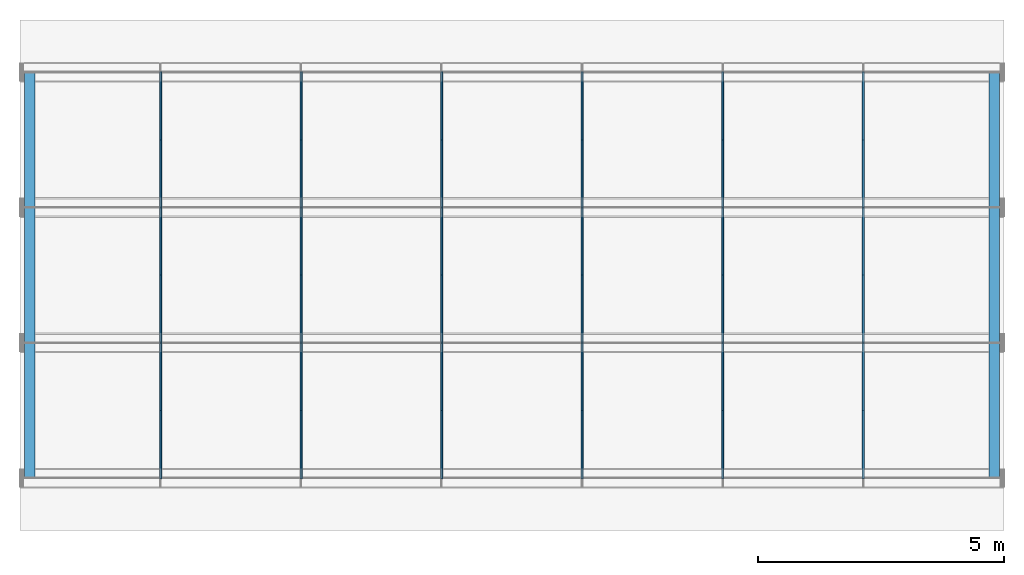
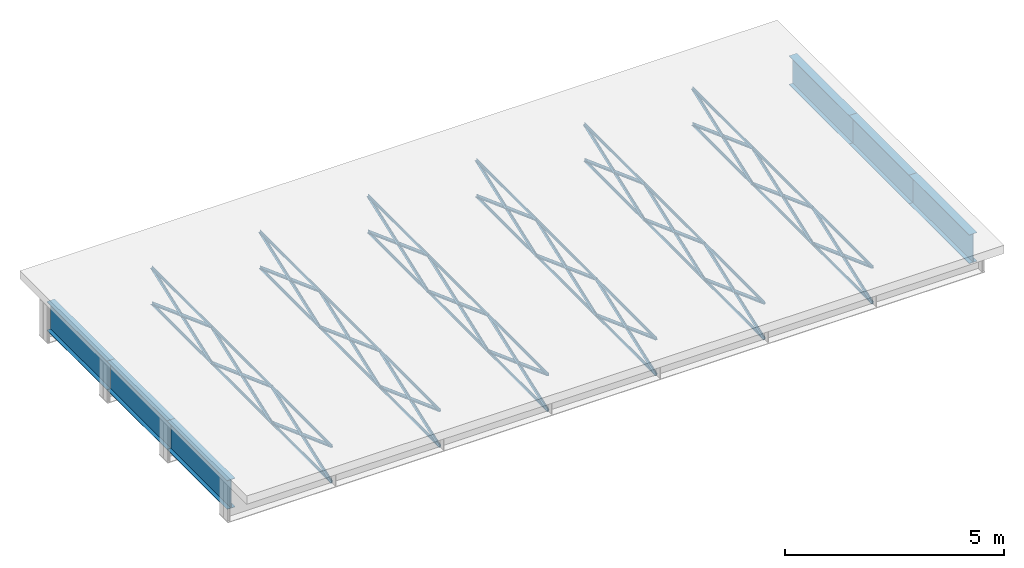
# One storey, part 1 of 12: 78 members.
"""IFC4 building model written with IfcOpenShell, lengths in metres."""

from ifc_helpers import new_model, si_unit, frame, origin, origin_with_axes, origin_2d_with_axis, place, context, subcontext, project, spatial, i_section, l_section, extrude, element, save


model = new_model("IFC4")

# Units and contexts
model_context = context("Model", 3, precision=1e-05, world=origin())
body_context = subcontext(model_context, "Body", "Model", "MODEL_VIEW")
ifc_project = project(units=[si_unit("LENGTHUNIT", "METRE"), si_unit("AREAUNIT", "SQUARE_METRE"), si_unit("VOLUMEUNIT", "CUBIC_METRE"), si_unit("PLANEANGLEUNIT", "RADIAN")], contexts=[model_context])

# Site, building, storey
site_placement = place(None, origin_with_axes())
site = spatial("IfcSite", under=ifc_project, at=site_placement, Name="Default Site")
building_placement = place(site_placement, origin_with_axes())
building = spatial("IfcBuilding", under=site, at=building_placement, Name="Bridge Structure")
storey_placement = place(building_placement, origin_with_axes())
storey = spatial("IfcBuildingStorey", under=building, at=storey_placement, Name="Superstructure")

# Members
for number, where, z_axis, x_axis, name in (
    (1, (0.2, -4.125, 0.101), (0.0, 1.0, 0.0), (-1.0, 0.0, 0.0), "End Diaphragm"),
    (2, (0.2, -1.375, 0.101), (0.0, 1.0, 0.0), (-1.0, 0.0, 0.0), "End Diaphragm"),
    (3, (0.2, 1.375, 0.101), (0.0, 1.0, 0.0), (-1.0, 0.0, 0.0), "End Diaphragm"),
):
    element("IfcMember", number, at=place(storey_placement, frame(where, z_axis=z_axis, x_axis=x_axis)), inside=storey, Name=name, context=body_context, shape_type="SweptSolid", body=[
        extrude(i_section(OverallWidth=0.21, OverallDepth=0.808, WebThickness=0.012, FlangeThickness=0.012, at=origin_2d_with_axis()), origin_with_axes(), (0.0, 0.0, 1.0), 2.75),
    ])
for number, where, z_axis, x_axis, name in (
    (4, (2.857142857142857, -4.125, 0.505), (0.0, 0.938692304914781, -0.3447560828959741), (-1.0, 0.0, 0.0), "Diagonal Brace"),
    (5, (2.857142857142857, -4.125, -0.505), (0.0, 0.938692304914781, 0.3447560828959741), (-1.0, 0.0, 0.0), "Diagonal Brace"),
):
    element("IfcMember", number, at=place(storey_placement, frame(where, z_axis=z_axis, x_axis=x_axis)), inside=storey, Name=name, context=body_context, shape_type="SweptSolid", body=[
        extrude(l_section(Depth=0.075, Width=0.05, Thickness=0.008, at=origin_2d_with_axis()), origin_with_axes(), (0.0, 0.0, 1.0), 2.929607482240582),
    ])
for number, where, z_axis, x_axis, name in (
    (6, (2.857142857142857, -4.125, -0.505), (0.0, 1.0, 0.0), (-1.0, 0.0, 0.0), "Bottom Chord"),
    (7, (2.857142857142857, -4.125, 0.505), (0.0, 1.0, 0.0), (-1.0, 0.0, 0.0), "Top Chord"),
):
    element("IfcMember", number, at=place(storey_placement, frame(where, z_axis=z_axis, x_axis=x_axis)), inside=storey, Name=name, context=body_context, shape_type="SweptSolid", body=[
        extrude(l_section(Depth=0.065, Width=0.04, Thickness=0.008, at=origin_2d_with_axis()), origin_with_axes(), (0.0, 0.0, 1.0), 2.75),
    ])
for number, where, z_axis, x_axis, name in (
    (8, (2.857142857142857, -1.375, 0.505), (0.0, 0.938692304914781, -0.3447560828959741), (-1.0, 0.0, 0.0), "Diagonal Brace"),
    (9, (2.857142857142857, -1.375, -0.505), (0.0, 0.938692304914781, 0.3447560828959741), (-1.0, 0.0, 0.0), "Diagonal Brace"),
):
    element("IfcMember", number, at=place(storey_placement, frame(where, z_axis=z_axis, x_axis=x_axis)), inside=storey, Name=name, context=body_context, shape_type="SweptSolid", body=[
        extrude(l_section(Depth=0.075, Width=0.05, Thickness=0.008, at=origin_2d_with_axis()), origin_with_axes(), (0.0, 0.0, 1.0), 2.929607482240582),
    ])
for number, where, z_axis, x_axis, name in (
    (10, (2.857142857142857, -1.375, -0.505), (0.0, 1.0, 0.0), (-1.0, 0.0, 0.0), "Bottom Chord"),
    (11, (2.857142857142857, -1.375, 0.505), (0.0, 1.0, 0.0), (-1.0, 0.0, 0.0), "Top Chord"),
):
    element("IfcMember", number, at=place(storey_placement, frame(where, z_axis=z_axis, x_axis=x_axis)), inside=storey, Name=name, context=body_context, shape_type="SweptSolid", body=[
        extrude(l_section(Depth=0.065, Width=0.04, Thickness=0.008, at=origin_2d_with_axis()), origin_with_axes(), (0.0, 0.0, 1.0), 2.75),
    ])
for number, where, z_axis, x_axis, name in (
    (12, (2.857142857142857, 1.375, 0.505), (0.0, 0.938692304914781, -0.3447560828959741), (-1.0, 0.0, 0.0), "Diagonal Brace"),
    (13, (2.857142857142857, 1.375, -0.505), (0.0, 0.938692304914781, 0.3447560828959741), (-1.0, 0.0, 0.0), "Diagonal Brace"),
):
    element("IfcMember", number, at=place(storey_placement, frame(where, z_axis=z_axis, x_axis=x_axis)), inside=storey, Name=name, context=body_context, shape_type="SweptSolid", body=[
        extrude(l_section(Depth=0.075, Width=0.05, Thickness=0.008, at=origin_2d_with_axis()), origin_with_axes(), (0.0, 0.0, 1.0), 2.929607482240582),
    ])
for number, where, z_axis, x_axis, name in (
    (14, (2.857142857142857, 1.375, -0.505), (0.0, 1.0, 0.0), (-1.0, 0.0, 0.0), "Bottom Chord"),
    (15, (2.857142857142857, 1.375, 0.505), (0.0, 1.0, 0.0), (-1.0, 0.0, 0.0), "Top Chord"),
):
    element("IfcMember", number, at=place(storey_placement, frame(where, z_axis=z_axis, x_axis=x_axis)), inside=storey, Name=name, context=body_context, shape_type="SweptSolid", body=[
        extrude(l_section(Depth=0.065, Width=0.04, Thickness=0.008, at=origin_2d_with_axis()), origin_with_axes(), (0.0, 0.0, 1.0), 2.75),
    ])
for number, where, z_axis, x_axis, name in (
    (16, (5.714285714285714, -4.125, 0.505), (0.0, 0.938692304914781, -0.3447560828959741), (-1.0, 0.0, 0.0), "Diagonal Brace"),
    (17, (5.714285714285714, -4.125, -0.505), (0.0, 0.938692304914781, 0.3447560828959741), (-1.0, 0.0, 0.0), "Diagonal Brace"),
):
    element("IfcMember", number, at=place(storey_placement, frame(where, z_axis=z_axis, x_axis=x_axis)), inside=storey, Name=name, context=body_context, shape_type="SweptSolid", body=[
        extrude(l_section(Depth=0.075, Width=0.05, Thickness=0.008, at=origin_2d_with_axis()), origin_with_axes(), (0.0, 0.0, 1.0), 2.929607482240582),
    ])
for number, where, z_axis, x_axis, name in (
    (18, (5.714285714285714, -4.125, -0.505), (0.0, 1.0, 0.0), (-1.0, 0.0, 0.0), "Bottom Chord"),
    (19, (5.714285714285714, -4.125, 0.505), (0.0, 1.0, 0.0), (-1.0, 0.0, 0.0), "Top Chord"),
):
    element("IfcMember", number, at=place(storey_placement, frame(where, z_axis=z_axis, x_axis=x_axis)), inside=storey, Name=name, context=body_context, shape_type="SweptSolid", body=[
        extrude(l_section(Depth=0.065, Width=0.04, Thickness=0.008, at=origin_2d_with_axis()), origin_with_axes(), (0.0, 0.0, 1.0), 2.75),
    ])
for number, where, z_axis, x_axis, name in (
    (20, (5.714285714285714, -1.375, 0.505), (0.0, 0.938692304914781, -0.3447560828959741), (-1.0, 0.0, 0.0), "Diagonal Brace"),
    (21, (5.714285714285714, -1.375, -0.505), (0.0, 0.938692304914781, 0.3447560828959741), (-1.0, 0.0, 0.0), "Diagonal Brace"),
):
    element("IfcMember", number, at=place(storey_placement, frame(where, z_axis=z_axis, x_axis=x_axis)), inside=storey, Name=name, context=body_context, shape_type="SweptSolid", body=[
        extrude(l_section(Depth=0.075, Width=0.05, Thickness=0.008, at=origin_2d_with_axis()), origin_with_axes(), (0.0, 0.0, 1.0), 2.929607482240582),
    ])
for number, where, z_axis, x_axis, name in (
    (22, (5.714285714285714, -1.375, -0.505), (0.0, 1.0, 0.0), (-1.0, 0.0, 0.0), "Bottom Chord"),
    (23, (5.714285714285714, -1.375, 0.505), (0.0, 1.0, 0.0), (-1.0, 0.0, 0.0), "Top Chord"),
):
    element("IfcMember", number, at=place(storey_placement, frame(where, z_axis=z_axis, x_axis=x_axis)), inside=storey, Name=name, context=body_context, shape_type="SweptSolid", body=[
        extrude(l_section(Depth=0.065, Width=0.04, Thickness=0.008, at=origin_2d_with_axis()), origin_with_axes(), (0.0, 0.0, 1.0), 2.75),
    ])
for number, where, z_axis, x_axis, name in (
    (24, (5.714285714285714, 1.375, 0.505), (0.0, 0.938692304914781, -0.3447560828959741), (-1.0, 0.0, 0.0), "Diagonal Brace"),
    (25, (5.714285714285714, 1.375, -0.505), (0.0, 0.938692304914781, 0.3447560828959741), (-1.0, 0.0, 0.0), "Diagonal Brace"),
):
    element("IfcMember", number, at=place(storey_placement, frame(where, z_axis=z_axis, x_axis=x_axis)), inside=storey, Name=name, context=body_context, shape_type="SweptSolid", body=[
        extrude(l_section(Depth=0.075, Width=0.05, Thickness=0.008, at=origin_2d_with_axis()), origin_with_axes(), (0.0, 0.0, 1.0), 2.929607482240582),
    ])
for number, where, z_axis, x_axis, name in (
    (26, (5.714285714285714, 1.375, -0.505), (0.0, 1.0, 0.0), (-1.0, 0.0, 0.0), "Bottom Chord"),
    (27, (5.714285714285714, 1.375, 0.505), (0.0, 1.0, 0.0), (-1.0, 0.0, 0.0), "Top Chord"),
):
    element("IfcMember", number, at=place(storey_placement, frame(where, z_axis=z_axis, x_axis=x_axis)), inside=storey, Name=name, context=body_context, shape_type="SweptSolid", body=[
        extrude(l_section(Depth=0.065, Width=0.04, Thickness=0.008, at=origin_2d_with_axis()), origin_with_axes(), (0.0, 0.0, 1.0), 2.75),
    ])
for number, where, z_axis, x_axis, name in (
    (28, (8.571428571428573, -4.125, 0.505), (0.0, 0.938692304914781, -0.3447560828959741), (-1.0, 0.0, 0.0), "Diagonal Brace"),
    (29, (8.571428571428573, -4.125, -0.505), (0.0, 0.938692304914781, 0.3447560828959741), (-1.0, 0.0, 0.0), "Diagonal Brace"),
):
    element("IfcMember", number, at=place(storey_placement, frame(where, z_axis=z_axis, x_axis=x_axis)), inside=storey, Name=name, context=body_context, shape_type="SweptSolid", body=[
        extrude(l_section(Depth=0.075, Width=0.05, Thickness=0.008, at=origin_2d_with_axis()), origin_with_axes(), (0.0, 0.0, 1.0), 2.929607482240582),
    ])
for number, where, z_axis, x_axis, name in (
    (30, (8.571428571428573, -4.125, -0.505), (0.0, 1.0, 0.0), (-1.0, 0.0, 0.0), "Bottom Chord"),
    (31, (8.571428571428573, -4.125, 0.505), (0.0, 1.0, 0.0), (-1.0, 0.0, 0.0), "Top Chord"),
):
    element("IfcMember", number, at=place(storey_placement, frame(where, z_axis=z_axis, x_axis=x_axis)), inside=storey, Name=name, context=body_context, shape_type="SweptSolid", body=[
        extrude(l_section(Depth=0.065, Width=0.04, Thickness=0.008, at=origin_2d_with_axis()), origin_with_axes(), (0.0, 0.0, 1.0), 2.75),
    ])
for number, where, z_axis, x_axis, name in (
    (32, (8.571428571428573, -1.375, 0.505), (0.0, 0.938692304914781, -0.3447560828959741), (-1.0, 0.0, 0.0), "Diagonal Brace"),
    (33, (8.571428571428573, -1.375, -0.505), (0.0, 0.938692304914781, 0.3447560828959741), (-1.0, 0.0, 0.0), "Diagonal Brace"),
):
    element("IfcMember", number, at=place(storey_placement, frame(where, z_axis=z_axis, x_axis=x_axis)), inside=storey, Name=name, context=body_context, shape_type="SweptSolid", body=[
        extrude(l_section(Depth=0.075, Width=0.05, Thickness=0.008, at=origin_2d_with_axis()), origin_with_axes(), (0.0, 0.0, 1.0), 2.929607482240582),
    ])
for number, where, z_axis, x_axis, name in (
    (34, (8.571428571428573, -1.375, -0.505), (0.0, 1.0, 0.0), (-1.0, 0.0, 0.0), "Bottom Chord"),
    (35, (8.571428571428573, -1.375, 0.505), (0.0, 1.0, 0.0), (-1.0, 0.0, 0.0), "Top Chord"),
):
    element("IfcMember", number, at=place(storey_placement, frame(where, z_axis=z_axis, x_axis=x_axis)), inside=storey, Name=name, context=body_context, shape_type="SweptSolid", body=[
        extrude(l_section(Depth=0.065, Width=0.04, Thickness=0.008, at=origin_2d_with_axis()), origin_with_axes(), (0.0, 0.0, 1.0), 2.75),
    ])
for number, where, z_axis, x_axis, name in (
    (36, (8.571428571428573, 1.375, 0.505), (0.0, 0.938692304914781, -0.3447560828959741), (-1.0, 0.0, 0.0), "Diagonal Brace"),
    (37, (8.571428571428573, 1.375, -0.505), (0.0, 0.938692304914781, 0.3447560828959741), (-1.0, 0.0, 0.0), "Diagonal Brace"),
):
    element("IfcMember", number, at=place(storey_placement, frame(where, z_axis=z_axis, x_axis=x_axis)), inside=storey, Name=name, context=body_context, shape_type="SweptSolid", body=[
        extrude(l_section(Depth=0.075, Width=0.05, Thickness=0.008, at=origin_2d_with_axis()), origin_with_axes(), (0.0, 0.0, 1.0), 2.929607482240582),
    ])
for number, where, z_axis, x_axis, name in (
    (38, (8.571428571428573, 1.375, -0.505), (0.0, 1.0, 0.0), (-1.0, 0.0, 0.0), "Bottom Chord"),
    (39, (8.571428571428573, 1.375, 0.505), (0.0, 1.0, 0.0), (-1.0, 0.0, 0.0), "Top Chord"),
):
    element("IfcMember", number, at=place(storey_placement, frame(where, z_axis=z_axis, x_axis=x_axis)), inside=storey, Name=name, context=body_context, shape_type="SweptSolid", body=[
        extrude(l_section(Depth=0.065, Width=0.04, Thickness=0.008, at=origin_2d_with_axis()), origin_with_axes(), (0.0, 0.0, 1.0), 2.75),
    ])
for number, where, z_axis, x_axis, name in (
    (40, (11.428571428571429, -4.125, 0.505), (0.0, 0.938692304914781, -0.3447560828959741), (-1.0, 0.0, 0.0), "Diagonal Brace"),
    (41, (11.428571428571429, -4.125, -0.505), (0.0, 0.938692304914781, 0.3447560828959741), (-1.0, 0.0, 0.0), "Diagonal Brace"),
):
    element("IfcMember", number, at=place(storey_placement, frame(where, z_axis=z_axis, x_axis=x_axis)), inside=storey, Name=name, context=body_context, shape_type="SweptSolid", body=[
        extrude(l_section(Depth=0.075, Width=0.05, Thickness=0.008, at=origin_2d_with_axis()), origin_with_axes(), (0.0, 0.0, 1.0), 2.929607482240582),
    ])
for number, where, z_axis, x_axis, name in (
    (42, (11.428571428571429, -4.125, -0.505), (0.0, 1.0, 0.0), (-1.0, 0.0, 0.0), "Bottom Chord"),
    (43, (11.428571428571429, -4.125, 0.505), (0.0, 1.0, 0.0), (-1.0, 0.0, 0.0), "Top Chord"),
):
    element("IfcMember", number, at=place(storey_placement, frame(where, z_axis=z_axis, x_axis=x_axis)), inside=storey, Name=name, context=body_context, shape_type="SweptSolid", body=[
        extrude(l_section(Depth=0.065, Width=0.04, Thickness=0.008, at=origin_2d_with_axis()), origin_with_axes(), (0.0, 0.0, 1.0), 2.75),
    ])
for number, where, z_axis, x_axis, name in (
    (44, (11.428571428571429, -1.375, 0.505), (0.0, 0.938692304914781, -0.3447560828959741), (-1.0, 0.0, 0.0), "Diagonal Brace"),
    (45, (11.428571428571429, -1.375, -0.505), (0.0, 0.938692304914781, 0.3447560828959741), (-1.0, 0.0, 0.0), "Diagonal Brace"),
):
    element("IfcMember", number, at=place(storey_placement, frame(where, z_axis=z_axis, x_axis=x_axis)), inside=storey, Name=name, context=body_context, shape_type="SweptSolid", body=[
        extrude(l_section(Depth=0.075, Width=0.05, Thickness=0.008, at=origin_2d_with_axis()), origin_with_axes(), (0.0, 0.0, 1.0), 2.929607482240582),
    ])
for number, where, z_axis, x_axis, name in (
    (46, (11.428571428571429, -1.375, -0.505), (0.0, 1.0, 0.0), (-1.0, 0.0, 0.0), "Bottom Chord"),
    (47, (11.428571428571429, -1.375, 0.505), (0.0, 1.0, 0.0), (-1.0, 0.0, 0.0), "Top Chord"),
):
    element("IfcMember", number, at=place(storey_placement, frame(where, z_axis=z_axis, x_axis=x_axis)), inside=storey, Name=name, context=body_context, shape_type="SweptSolid", body=[
        extrude(l_section(Depth=0.065, Width=0.04, Thickness=0.008, at=origin_2d_with_axis()), origin_with_axes(), (0.0, 0.0, 1.0), 2.75),
    ])
for number, where, z_axis, x_axis, name in (
    (48, (11.428571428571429, 1.375, 0.505), (0.0, 0.938692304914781, -0.3447560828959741), (-1.0, 0.0, 0.0), "Diagonal Brace"),
    (49, (11.428571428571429, 1.375, -0.505), (0.0, 0.938692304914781, 0.3447560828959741), (-1.0, 0.0, 0.0), "Diagonal Brace"),
):
    element("IfcMember", number, at=place(storey_placement, frame(where, z_axis=z_axis, x_axis=x_axis)), inside=storey, Name=name, context=body_context, shape_type="SweptSolid", body=[
        extrude(l_section(Depth=0.075, Width=0.05, Thickness=0.008, at=origin_2d_with_axis()), origin_with_axes(), (0.0, 0.0, 1.0), 2.929607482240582),
    ])
for number, where, z_axis, x_axis, name in (
    (50, (11.428571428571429, 1.375, -0.505), (0.0, 1.0, 0.0), (-1.0, 0.0, 0.0), "Bottom Chord"),
    (51, (11.428571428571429, 1.375, 0.505), (0.0, 1.0, 0.0), (-1.0, 0.0, 0.0), "Top Chord"),
):
    element("IfcMember", number, at=place(storey_placement, frame(where, z_axis=z_axis, x_axis=x_axis)), inside=storey, Name=name, context=body_context, shape_type="SweptSolid", body=[
        extrude(l_section(Depth=0.065, Width=0.04, Thickness=0.008, at=origin_2d_with_axis()), origin_with_axes(), (0.0, 0.0, 1.0), 2.75),
    ])
for number, where, z_axis, x_axis, name in (
    (52, (14.285714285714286, -4.125, 0.505), (0.0, 0.938692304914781, -0.3447560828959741), (-1.0, 0.0, 0.0), "Diagonal Brace"),
    (53, (14.285714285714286, -4.125, -0.505), (0.0, 0.938692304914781, 0.3447560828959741), (-1.0, 0.0, 0.0), "Diagonal Brace"),
):
    element("IfcMember", number, at=place(storey_placement, frame(where, z_axis=z_axis, x_axis=x_axis)), inside=storey, Name=name, context=body_context, shape_type="SweptSolid", body=[
        extrude(l_section(Depth=0.075, Width=0.05, Thickness=0.008, at=origin_2d_with_axis()), origin_with_axes(), (0.0, 0.0, 1.0), 2.929607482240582),
    ])
for number, where, z_axis, x_axis, name in (
    (54, (14.285714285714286, -4.125, -0.505), (0.0, 1.0, 0.0), (-1.0, 0.0, 0.0), "Bottom Chord"),
    (55, (14.285714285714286, -4.125, 0.505), (0.0, 1.0, 0.0), (-1.0, 0.0, 0.0), "Top Chord"),
):
    element("IfcMember", number, at=place(storey_placement, frame(where, z_axis=z_axis, x_axis=x_axis)), inside=storey, Name=name, context=body_context, shape_type="SweptSolid", body=[
        extrude(l_section(Depth=0.065, Width=0.04, Thickness=0.008, at=origin_2d_with_axis()), origin_with_axes(), (0.0, 0.0, 1.0), 2.75),
    ])
for number, where, z_axis, x_axis, name in (
    (56, (14.285714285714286, -1.375, 0.505), (0.0, 0.938692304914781, -0.3447560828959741), (-1.0, 0.0, 0.0), "Diagonal Brace"),
    (57, (14.285714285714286, -1.375, -0.505), (0.0, 0.938692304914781, 0.3447560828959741), (-1.0, 0.0, 0.0), "Diagonal Brace"),
):
    element("IfcMember", number, at=place(storey_placement, frame(where, z_axis=z_axis, x_axis=x_axis)), inside=storey, Name=name, context=body_context, shape_type="SweptSolid", body=[
        extrude(l_section(Depth=0.075, Width=0.05, Thickness=0.008, at=origin_2d_with_axis()), origin_with_axes(), (0.0, 0.0, 1.0), 2.929607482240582),
    ])
for number, where, z_axis, x_axis, name in (
    (58, (14.285714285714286, -1.375, -0.505), (0.0, 1.0, 0.0), (-1.0, 0.0, 0.0), "Bottom Chord"),
    (59, (14.285714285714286, -1.375, 0.505), (0.0, 1.0, 0.0), (-1.0, 0.0, 0.0), "Top Chord"),
):
    element("IfcMember", number, at=place(storey_placement, frame(where, z_axis=z_axis, x_axis=x_axis)), inside=storey, Name=name, context=body_context, shape_type="SweptSolid", body=[
        extrude(l_section(Depth=0.065, Width=0.04, Thickness=0.008, at=origin_2d_with_axis()), origin_with_axes(), (0.0, 0.0, 1.0), 2.75),
    ])
for number, where, z_axis, x_axis, name in (
    (60, (14.285714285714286, 1.375, 0.505), (0.0, 0.938692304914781, -0.3447560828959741), (-1.0, 0.0, 0.0), "Diagonal Brace"),
    (61, (14.285714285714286, 1.375, -0.505), (0.0, 0.938692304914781, 0.3447560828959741), (-1.0, 0.0, 0.0), "Diagonal Brace"),
):
    element("IfcMember", number, at=place(storey_placement, frame(where, z_axis=z_axis, x_axis=x_axis)), inside=storey, Name=name, context=body_context, shape_type="SweptSolid", body=[
        extrude(l_section(Depth=0.075, Width=0.05, Thickness=0.008, at=origin_2d_with_axis()), origin_with_axes(), (0.0, 0.0, 1.0), 2.929607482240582),
    ])
for number, where, z_axis, x_axis, name in (
    (62, (14.285714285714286, 1.375, -0.505), (0.0, 1.0, 0.0), (-1.0, 0.0, 0.0), "Bottom Chord"),
    (63, (14.285714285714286, 1.375, 0.505), (0.0, 1.0, 0.0), (-1.0, 0.0, 0.0), "Top Chord"),
):
    element("IfcMember", number, at=place(storey_placement, frame(where, z_axis=z_axis, x_axis=x_axis)), inside=storey, Name=name, context=body_context, shape_type="SweptSolid", body=[
        extrude(l_section(Depth=0.065, Width=0.04, Thickness=0.008, at=origin_2d_with_axis()), origin_with_axes(), (0.0, 0.0, 1.0), 2.75),
    ])
for number, where, z_axis, x_axis, name in (
    (64, (17.142857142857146, -4.125, 0.505), (0.0, 0.938692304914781, -0.3447560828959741), (-1.0, 0.0, 0.0), "Diagonal Brace"),
    (65, (17.142857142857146, -4.125, -0.505), (0.0, 0.938692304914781, 0.3447560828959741), (-1.0, 0.0, 0.0), "Diagonal Brace"),
):
    element("IfcMember", number, at=place(storey_placement, frame(where, z_axis=z_axis, x_axis=x_axis)), inside=storey, Name=name, context=body_context, shape_type="SweptSolid", body=[
        extrude(l_section(Depth=0.075, Width=0.05, Thickness=0.008, at=origin_2d_with_axis()), origin_with_axes(), (0.0, 0.0, 1.0), 2.929607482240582),
    ])
for number, where, z_axis, x_axis, name in (
    (66, (17.142857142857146, -4.125, -0.505), (0.0, 1.0, 0.0), (-1.0, 0.0, 0.0), "Bottom Chord"),
    (67, (17.142857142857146, -4.125, 0.505), (0.0, 1.0, 0.0), (-1.0, 0.0, 0.0), "Top Chord"),
):
    element("IfcMember", number, at=place(storey_placement, frame(where, z_axis=z_axis, x_axis=x_axis)), inside=storey, Name=name, context=body_context, shape_type="SweptSolid", body=[
        extrude(l_section(Depth=0.065, Width=0.04, Thickness=0.008, at=origin_2d_with_axis()), origin_with_axes(), (0.0, 0.0, 1.0), 2.75),
    ])
for number, where, z_axis, x_axis, name in (
    (68, (17.142857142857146, -1.375, 0.505), (0.0, 0.938692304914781, -0.3447560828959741), (-1.0, 0.0, 0.0), "Diagonal Brace"),
    (69, (17.142857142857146, -1.375, -0.505), (0.0, 0.938692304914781, 0.3447560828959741), (-1.0, 0.0, 0.0), "Diagonal Brace"),
):
    element("IfcMember", number, at=place(storey_placement, frame(where, z_axis=z_axis, x_axis=x_axis)), inside=storey, Name=name, context=body_context, shape_type="SweptSolid", body=[
        extrude(l_section(Depth=0.075, Width=0.05, Thickness=0.008, at=origin_2d_with_axis()), origin_with_axes(), (0.0, 0.0, 1.0), 2.929607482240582),
    ])
for number, where, z_axis, x_axis, name in (
    (70, (17.142857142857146, -1.375, -0.505), (0.0, 1.0, 0.0), (-1.0, 0.0, 0.0), "Bottom Chord"),
    (71, (17.142857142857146, -1.375, 0.505), (0.0, 1.0, 0.0), (-1.0, 0.0, 0.0), "Top Chord"),
):
    element("IfcMember", number, at=place(storey_placement, frame(where, z_axis=z_axis, x_axis=x_axis)), inside=storey, Name=name, context=body_context, shape_type="SweptSolid", body=[
        extrude(l_section(Depth=0.065, Width=0.04, Thickness=0.008, at=origin_2d_with_axis()), origin_with_axes(), (0.0, 0.0, 1.0), 2.75),
    ])
for number, where, z_axis, x_axis, name in (
    (72, (17.142857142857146, 1.375, 0.505), (0.0, 0.938692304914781, -0.3447560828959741), (-1.0, 0.0, 0.0), "Diagonal Brace"),
    (73, (17.142857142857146, 1.375, -0.505), (0.0, 0.938692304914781, 0.3447560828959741), (-1.0, 0.0, 0.0), "Diagonal Brace"),
):
    element("IfcMember", number, at=place(storey_placement, frame(where, z_axis=z_axis, x_axis=x_axis)), inside=storey, Name=name, context=body_context, shape_type="SweptSolid", body=[
        extrude(l_section(Depth=0.075, Width=0.05, Thickness=0.008, at=origin_2d_with_axis()), origin_with_axes(), (0.0, 0.0, 1.0), 2.929607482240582),
    ])
for number, where, z_axis, x_axis, name in (
    (74, (17.142857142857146, 1.375, -0.505), (0.0, 1.0, 0.0), (-1.0, 0.0, 0.0), "Bottom Chord"),
    (75, (17.142857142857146, 1.375, 0.505), (0.0, 1.0, 0.0), (-1.0, 0.0, 0.0), "Top Chord"),
):
    element("IfcMember", number, at=place(storey_placement, frame(where, z_axis=z_axis, x_axis=x_axis)), inside=storey, Name=name, context=body_context, shape_type="SweptSolid", body=[
        extrude(l_section(Depth=0.065, Width=0.04, Thickness=0.008, at=origin_2d_with_axis()), origin_with_axes(), (0.0, 0.0, 1.0), 2.75),
    ])
for number, where, z_axis, x_axis, name in (
    (76, (19.8, -4.125, 0.101), (0.0, 1.0, 0.0), (-1.0, 0.0, 0.0), "End Diaphragm"),
    (77, (19.8, -1.375, 0.101), (0.0, 1.0, 0.0), (-1.0, 0.0, 0.0), "End Diaphragm"),
    (78, (19.8, 1.375, 0.101), (0.0, 1.0, 0.0), (-1.0, 0.0, 0.0), "End Diaphragm"),
):
    element("IfcMember", number, at=place(storey_placement, frame(where, z_axis=z_axis, x_axis=x_axis)), inside=storey, Name=name, context=body_context, shape_type="SweptSolid", body=[
        extrude(i_section(OverallWidth=0.21, OverallDepth=0.808, WebThickness=0.012, FlangeThickness=0.012, at=origin_2d_with_axis()), origin_with_axes(), (0.0, 0.0, 1.0), 2.75),
    ])

save(model, "model.ifc")
